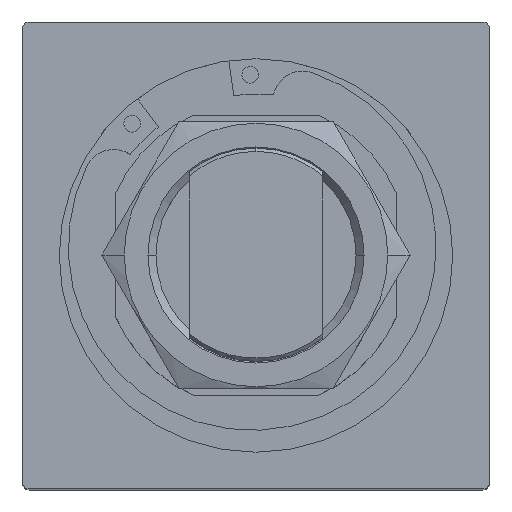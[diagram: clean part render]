
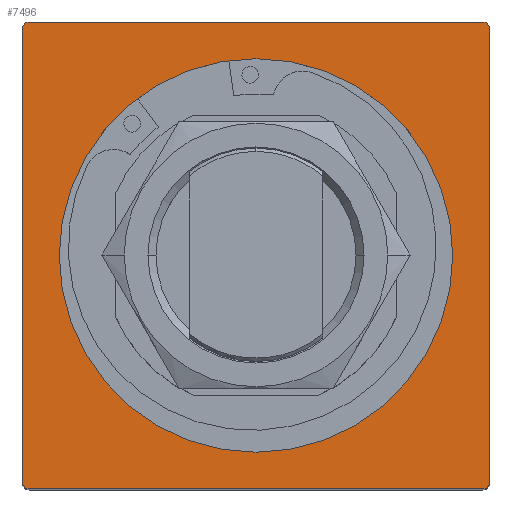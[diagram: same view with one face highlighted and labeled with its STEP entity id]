
A CAD part, top view. The second image highlights one B-rep face of the part: STEP entity #7496.
In plain terms, the highlighted planar face has unit normal (0, 0, 1).
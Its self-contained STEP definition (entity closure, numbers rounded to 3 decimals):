
#42 = CIRCLE ( 'NONE', #18112, 1. ) ;
#128 = EDGE_CURVE ( 'NONE', #5029, #314, #8082, .T. ) ;
#303 = ORIENTED_EDGE ( 'NONE', *, *, #18681, .T. ) ;
#314 = VERTEX_POINT ( 'NONE', #9412 ) ;
#342 = EDGE_CURVE ( 'NONE', #12559, #5029, #17556, .T. ) ;
#459 = CARTESIAN_POINT ( 'NONE',  ( -29.278, 0.259, 753.822 ) ) ;
#562 = DIRECTION ( 'NONE',  ( -1., 0., 0. ) ) ;
#632 = CARTESIAN_POINT ( 'NONE',  ( 34.222, 34.259, 753.822 ) ) ;
#1193 = PLANE ( 'NONE',  #13624 ) ;
#1473 = VECTOR ( 'NONE', #13926, 1000. ) ;
#1542 = CARTESIAN_POINT ( 'NONE',  ( 0.222, 0.259, 753.822 ) ) ;
#1641 = VECTOR ( 'NONE', #12047, 1000. ) ;
#1902 = AXIS2_PLACEMENT_3D ( 'NONE', #19322, #10282, #13412 ) ;
#2145 = LINE ( 'NONE', #7540, #1641 ) ;
#2162 = VERTEX_POINT ( 'NONE', #4717 ) ;
#2268 = CARTESIAN_POINT ( 'NONE',  ( 34.222, 35.259, 753.822 ) ) ;
#2410 = CARTESIAN_POINT ( 'NONE',  ( 0.222, 0.259, 753.822 ) ) ;
#2728 = EDGE_CURVE ( 'NONE', #7252, #2162, #12000, .T. ) ;
#2998 = ORIENTED_EDGE ( 'NONE', *, *, #342, .T. ) ;
#3141 = VERTEX_POINT ( 'NONE', #7268 ) ;
#3405 = CARTESIAN_POINT ( 'NONE',  ( -34.778, 35.259, 753.822 ) ) ;
#3499 = CARTESIAN_POINT ( 'NONE',  ( 35.222, 34.259, 753.822 ) ) ;
#4585 = AXIS2_PLACEMENT_3D ( 'NONE', #12620, #15668, #8439 ) ;
#4717 = CARTESIAN_POINT ( 'NONE',  ( -34.778, -33.741, 753.822 ) ) ;
#5029 = VERTEX_POINT ( 'NONE', #12222 ) ;
#5991 = FACE_BOUND ( 'NONE', #7049, .T. ) ;
#6185 = CARTESIAN_POINT ( 'NONE',  ( 34.222, -34.741, 753.822 ) ) ;
#7049 = EDGE_LOOP ( 'NONE', ( #11770, #13995 ) ) ;
#7252 = VERTEX_POINT ( 'NONE', #11172 ) ;
#7268 = CARTESIAN_POINT ( 'NONE',  ( 35.222, -33.741, 753.822 ) ) ;
#7496 = ADVANCED_FACE ( 'NONE', ( #5991, #16135 ), #1193, .T. ) ;
#7515 = DIRECTION ( 'NONE',  ( 0., 0., -1. ) ) ;
#7540 = CARTESIAN_POINT ( 'NONE',  ( 35.222, 0.259, 753.822 ) ) ;
#8082 = CIRCLE ( 'NONE', #1902, 1. ) ;
#8147 = CARTESIAN_POINT ( 'NONE',  ( 29.722, 0.259, 753.822 ) ) ;
#8244 = CIRCLE ( 'NONE', #4585, 29.5 ) ;
#8439 = DIRECTION ( 'NONE',  ( -1., 0., 0. ) ) ;
#8650 = VECTOR ( 'NONE', #13645, 1000. ) ;
#9412 = CARTESIAN_POINT ( 'NONE',  ( -34.778, 34.259, 753.822 ) ) ;
#9421 = EDGE_CURVE ( 'NONE', #17336, #15932, #16809, .T. ) ;
#9438 = DIRECTION ( 'NONE',  ( 0., 0., -1. ) ) ;
#10264 = EDGE_CURVE ( 'NONE', #3141, #15537, #2145, .T. ) ;
#10282 = DIRECTION ( 'NONE',  ( 0., 0., 1. ) ) ;
#10427 = EDGE_CURVE ( 'NONE', #314, #2162, #18884, .T. ) ;
#10607 = DIRECTION ( 'NONE',  ( 1., 0., 0. ) ) ;
#10915 = ORIENTED_EDGE ( 'NONE', *, *, #10427, .T. ) ;
#10977 = CARTESIAN_POINT ( 'NONE',  ( -33.778, -33.741, 753.822 ) ) ;
#11130 = DIRECTION ( 'NONE',  ( 0., 0., 1. ) ) ;
#11172 = CARTESIAN_POINT ( 'NONE',  ( -33.778, -34.741, 753.822 ) ) ;
#11261 = ORIENTED_EDGE ( 'NONE', *, *, #19281, .T. ) ;
#11770 = ORIENTED_EDGE ( 'NONE', *, *, #14256, .T. ) ;
#12000 = CIRCLE ( 'NONE', #15662, 1. ) ;
#12047 = DIRECTION ( 'NONE',  ( 0., 1., 0. ) ) ;
#12096 = ORIENTED_EDGE ( 'NONE', *, *, #10264, .T. ) ;
#12192 = EDGE_LOOP ( 'NONE', ( #303, #13528, #12096, #11261, #2998, #17808, #10915, #19181 ) ) ;
#12222 = CARTESIAN_POINT ( 'NONE',  ( -33.778, 35.259, 753.822 ) ) ;
#12272 = EDGE_CURVE ( 'NONE', #3141, #18537, #14048, .T. ) ;
#12315 = VECTOR ( 'NONE', #16991, 1000. ) ;
#12559 = VERTEX_POINT ( 'NONE', #2268 ) ;
#12620 = CARTESIAN_POINT ( 'NONE',  ( 0.222, 0.259, 753.822 ) ) ;
#13412 = DIRECTION ( 'NONE',  ( -1., 0., 0. ) ) ;
#13528 = ORIENTED_EDGE ( 'NONE', *, *, #12272, .F. ) ;
#13624 = AXIS2_PLACEMENT_3D ( 'NONE', #2410, #18183, #10607 ) ;
#13645 = DIRECTION ( 'NONE',  ( 0., -1., 0. ) ) ;
#13926 = DIRECTION ( 'NONE',  ( 1., 0., 0. ) ) ;
#13995 = ORIENTED_EDGE ( 'NONE', *, *, #9421, .T. ) ;
#14048 = CIRCLE ( 'NONE', #18259, 1. ) ;
#14253 = CARTESIAN_POINT ( 'NONE',  ( 0.222, -34.741, 753.822 ) ) ;
#14256 = EDGE_CURVE ( 'NONE', #15932, #17336, #8244, .T. ) ;
#14514 = DIRECTION ( 'NONE',  ( -1., 0., 0. ) ) ;
#15537 = VERTEX_POINT ( 'NONE', #3499 ) ;
#15662 = AXIS2_PLACEMENT_3D ( 'NONE', #10977, #9438, #18807 ) ;
#15668 = DIRECTION ( 'NONE',  ( 0., 0., -1. ) ) ;
#15932 = VERTEX_POINT ( 'NONE', #459 ) ;
#16135 = FACE_OUTER_BOUND ( 'NONE', #12192, .T. ) ;
#16162 = AXIS2_PLACEMENT_3D ( 'NONE', #1542, #7515, #19660 ) ;
#16809 = CIRCLE ( 'NONE', #16162, 29.5 ) ;
#16991 = DIRECTION ( 'NONE',  ( -1., 0., 0. ) ) ;
#17336 = VERTEX_POINT ( 'NONE', #8147 ) ;
#17469 = CARTESIAN_POINT ( 'NONE',  ( -34.778, 0.259, 753.822 ) ) ;
#17556 = LINE ( 'NONE', #3405, #12315 ) ;
#17808 = ORIENTED_EDGE ( 'NONE', *, *, #128, .T. ) ;
#17820 = DIRECTION ( 'NONE',  ( 0., 0., -1. ) ) ;
#18112 = AXIS2_PLACEMENT_3D ( 'NONE', #632, #11130, #562 ) ;
#18183 = DIRECTION ( 'NONE',  ( 0., 0., 1. ) ) ;
#18259 = AXIS2_PLACEMENT_3D ( 'NONE', #19287, #17820, #14514 ) ;
#18537 = VERTEX_POINT ( 'NONE', #6185 ) ;
#18681 = EDGE_CURVE ( 'NONE', #7252, #18537, #18820, .T. ) ;
#18807 = DIRECTION ( 'NONE',  ( -1., 0., 0. ) ) ;
#18820 = LINE ( 'NONE', #14253, #1473 ) ;
#18884 = LINE ( 'NONE', #17469, #8650 ) ;
#19181 = ORIENTED_EDGE ( 'NONE', *, *, #2728, .F. ) ;
#19281 = EDGE_CURVE ( 'NONE', #15537, #12559, #42, .T. ) ;
#19287 = CARTESIAN_POINT ( 'NONE',  ( 34.222, -33.741, 753.822 ) ) ;
#19322 = CARTESIAN_POINT ( 'NONE',  ( -33.778, 34.259, 753.822 ) ) ;
#19660 = DIRECTION ( 'NONE',  ( -1., 0., 0. ) ) ;
